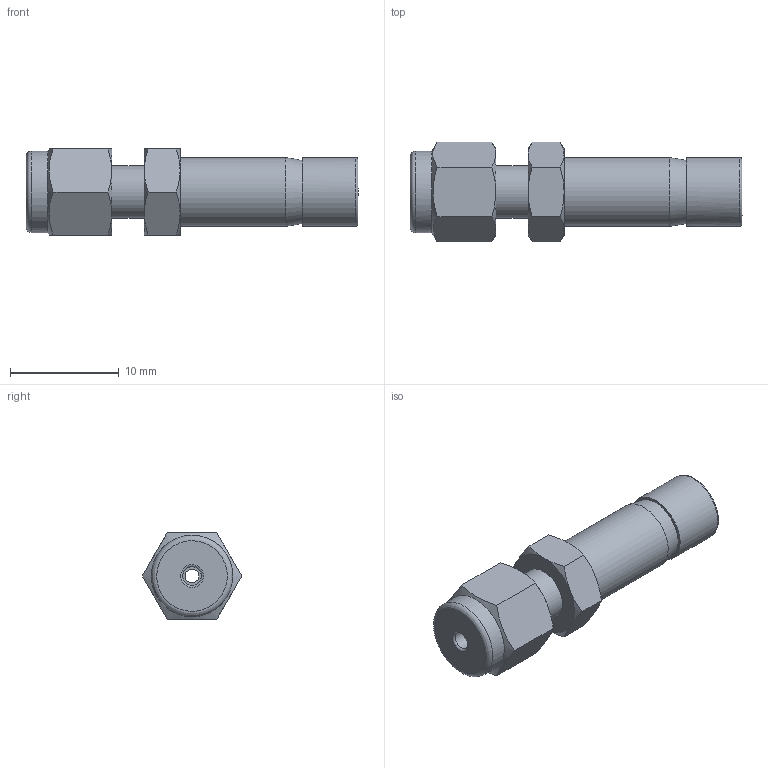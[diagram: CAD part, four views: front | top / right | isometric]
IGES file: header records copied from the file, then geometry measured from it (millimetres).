
Global section: file name: SR-1-4; native system: Autodesk Inventor 2016; preprocessor: unknown; author: DESIGNPC2; date: 20151111.144836; units: millimetre
Bounding box: 30.59 x 9.17 x 7.94 mm (x, y, z)
Volume: 867.2 mm3; surface area: 1135.7 mm2
Topology: 1 solids, 1 shells, 50 faces, 124 edges, 81 vertices
Faces by surface type: bspline 50
